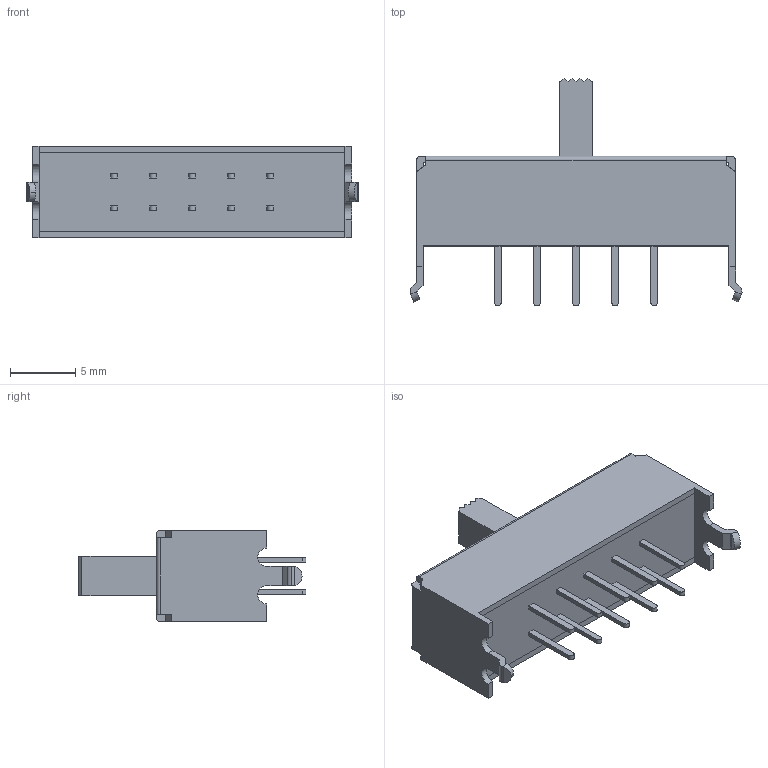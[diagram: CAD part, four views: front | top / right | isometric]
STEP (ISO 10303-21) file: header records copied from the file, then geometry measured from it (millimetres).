
FILE_DESCRIPTION (( 'STEP AP214' ), '1' );
FILE_NAME ('SSSU025800.STEP', '2011-04-04T07:04:12', ( '' ), ( '' ), 'SwSTEP 2.0', 'SolidWorks 2007', '' );
FILE_SCHEMA (( 'AUTOMOTIVE_DESIGN' ));
Length unit declared in the file: millimetre
Products named in the file (1): SSSU025800
Bounding box: 25.5 x 17.5 x 7 mm (x, y, z)
Volume: 1225.1 mm3; surface area: 1023 mm2
Topology: 1 solids, 1 shells, 136 faces, 370 edges, 244 vertices
Faces by surface type: plane 105, cylinder 31
Entity records: 5013 total; most frequent: CARTESIAN_POINT 751, ORIENTED_EDGE 740, DIRECTION 710, EDGE_CURVE 370, VECTOR 304, LINE 304, VERTEX_POINT 244, AXIS2_PLACEMENT_3D 203
